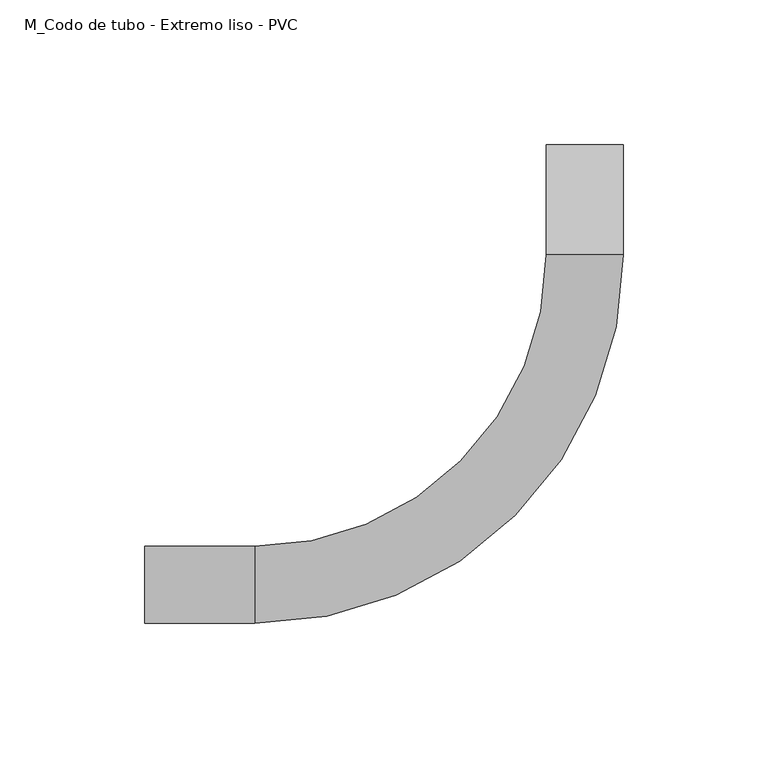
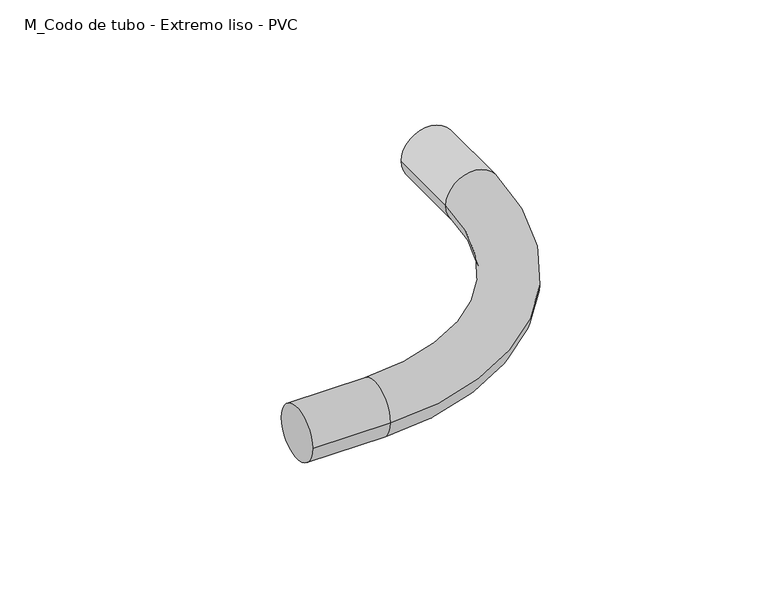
"""IFC4 building model written with IfcOpenShell, lengths in millimetres: cable carrier fitting geometry, M_Codo de tubo - Extremo liso - PVC : CODO ILUMINACION."""

from ifc_helpers import new_model, si_unit, point, frame, origin, place, context, project, spatial, circle_curve, ellipse_curve, trimmed, source, transform, mapped, element, save
from ifc_brep_helpers import plane_surface, cylinder_surface, revolved_surface, advanced_brep


def m_codo_de_tubo_extremo_liso_pvc_9da73e12(model_context):
    return source(origin(), model_context, "Body", "AdvancedBrep", [
        advanced_brep(
        [(-152.4, -13.335, 0.0), (-152.4, 13.335, 0.0), (-114.3, -13.335, 0.0), (-114.3, 13.335, 0.0), (-13.335, 114.3, 0.0), (13.335, 114.3, 0.0), (13.335, 152.4, 0.0), (-13.335, 152.4, 0.0)],
        [
            (0, 1, circle_curve(frame((-152.4, 0.0, 0.0), z_axis=(-1.0, 0.0, 0.0), x_axis=(0.0, 1.0, 0.0)), 13.335)),
            (1, 0, circle_curve(frame((-152.4, 0.0, 0.0), z_axis=(-1.0, 0.0, 0.0), x_axis=(0.0, 1.0, 0.0)), 13.335)),
            (0, 2),
            (2, 3, circle_curve(frame((-114.3, 0.0, 0.0), z_axis=(-1.0, 0.0, 0.0), x_axis=(0.0, 1.0, 0.0)), 13.335)),
            (3, 1),
            (3, 2, circle_curve(frame((-114.3, 0.0, 0.0), z_axis=(-1.0, 0.0, 0.0), x_axis=(0.0, 1.0, 0.0)), 13.335)),
            (4, 3, circle_curve(frame((-114.3, 114.3, 0.0), z_axis=(0.0, 0.0, -1.0), x_axis=(0.0, -1.0, 0.0)), 100.965)),
            (2, 5, circle_curve(frame((-114.3, 114.3, 0.0), z_axis=(0.0, 0.0, 1.0), x_axis=(0.0, -1.0, 0.0)), 127.635)),
            (5, 4, circle_curve(frame((0.0, 114.3, 0.0), z_axis=(0.0, -1.0, 0.0), x_axis=(-1.0, 0.0, 0.0)), 13.335)),
            (4, 5, circle_curve(frame((0.0, 114.3, 0.0), z_axis=(0.0, -1.0, 0.0), x_axis=(-1.0, 0.0, 0.0)), 13.335)),
            (6, 7, circle_curve(frame((0.0, 152.4, 0.0), z_axis=(0.0, 1.0, 0.0), x_axis=(-1.0, 0.0, 0.0)), 13.335)),
            (7, 6, circle_curve(frame((0.0, 152.4, 0.0), z_axis=(0.0, 1.0, 0.0), x_axis=(-1.0, 0.0, 0.0)), 13.335)),
            (5, 6),
            (7, 4),
        ],
        [
            plane_surface(frame((-152.4, 0.0, 0.0), z_axis=(-1.0, 0.0, 0.0), x_axis=(0.0, 0.0, 1.0))),
            cylinder_surface(frame((-152.4, 0.0, 0.0), z_axis=(-1.0, 0.0, 0.0), x_axis=(0.0, 1.0, 0.0)), 13.335),
            revolved_surface(trimmed(ellipse_curve(frame((-114.3, 0.0, 0.0), z_axis=(-1.0, 0.0, 0.0), x_axis=(0.0, 1.0, 0.0)), 13.335, 13.335), [point((-114.3, -13.335, 0.0))], [point((-114.3, 13.335, 0.0))], True, "CARTESIAN"), (-114.3, 114.3, 0.0), (0.0, 0.0, 1.0)),
            revolved_surface(trimmed(ellipse_curve(frame((-114.3, 0.0, 0.0), z_axis=(-1.0, 0.0, 0.0), x_axis=(0.0, 1.0, 0.0)), 13.335, 13.335), [point((-114.3, 13.335, 0.0))], [point((-114.3, -13.335, 0.0))], True, "CARTESIAN"), (-114.3, 114.3, 0.0), (0.0, 0.0, 1.0)),
            plane_surface(frame((0.0, 152.4, 0.0), z_axis=(0.0, 1.0, 0.0), x_axis=(0.0, 0.0, 1.0))),
            cylinder_surface(frame((0.0, 114.3, 0.0), z_axis=(0.0, -1.0, 0.0), x_axis=(-1.0, 0.0, 0.0)), 13.335),
        ],
        [
            (0, [[1, 2]]),
            (1, [[-1, 3, 4, 5]]),
            (1, [[-2, -5, 6, -3]]),
            (2, [[7, -4, 8, 9]]),
            (3, [[-8, -6, -7, 10]]),
            (4, [[11, 12]]),
            (5, [[-9, 13, -12, 14]]),
            (5, [[-10, -14, -11, -13]]),
        ],
    ),
    ])


if __name__ == "__main__":
    model = new_model("IFC4")
    model_context = context("Model", 3, world=origin())
    ifc_project = project(units=[si_unit("LENGTHUNIT", "METRE", prefix="MILLI")], contexts=[model_context])
    site = spatial("IfcSite", under=ifc_project)
    building = spatial("IfcBuilding", under=site)
    placement = place(None, origin())
    m_codo_de_tubo_extremo_liso_pvc_shape = m_codo_de_tubo_extremo_liso_pvc_9da73e12(model_context)
    element("IfcCableCarrierFitting", 1, ObjectType="M_Codo de tubo - Extremo liso - PVC : CODO ILUMINACION", at=placement, inside=building, context=model_context, shape_type="MappedRepresentation", body=[
        mapped(m_codo_de_tubo_extremo_liso_pvc_shape, transform((0.0, 0.0, 0.0), x_axis=(1.0, 0.0, 0.0), y_axis=(0.0, 1.0, 0.0), z_axis=(0.0, 0.0, 1.0))),
    ])
    save(model, "model.ifc")
